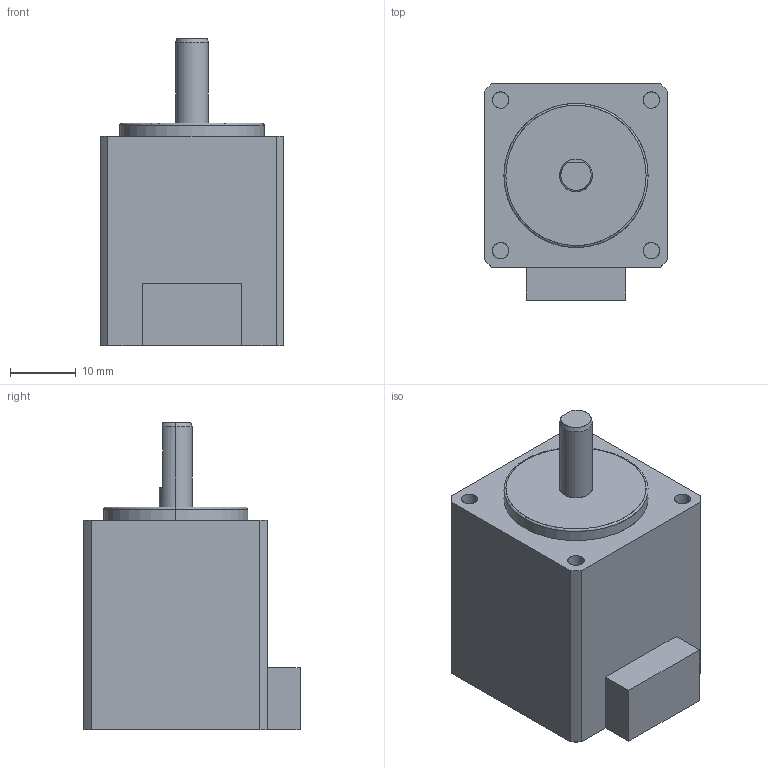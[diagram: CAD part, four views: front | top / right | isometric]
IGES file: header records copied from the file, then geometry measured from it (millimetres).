
Start section: SolidWorks IGES file using analytic representation for surfaces
Global section: file name: \\MCADserv\kari\7666\Plexmotion New 3D data\PMSB-U28DA1_3D\PMSB-U28DA1_3D.IGS; native system: SolidWorks 2014; preprocessor: SolidWorks 2014; author: user0016; date: 161115.113904; units: millimetre
Bounding box: 28 x 33 x 47 mm (x, y, z)
Surface area: 6537.9 mm2 (no closed solid volume)
Topology: 0 solids, 0 shells, 40 faces, 536 edges, 536 vertices
Faces by surface type: bspline 21, revolution 19
